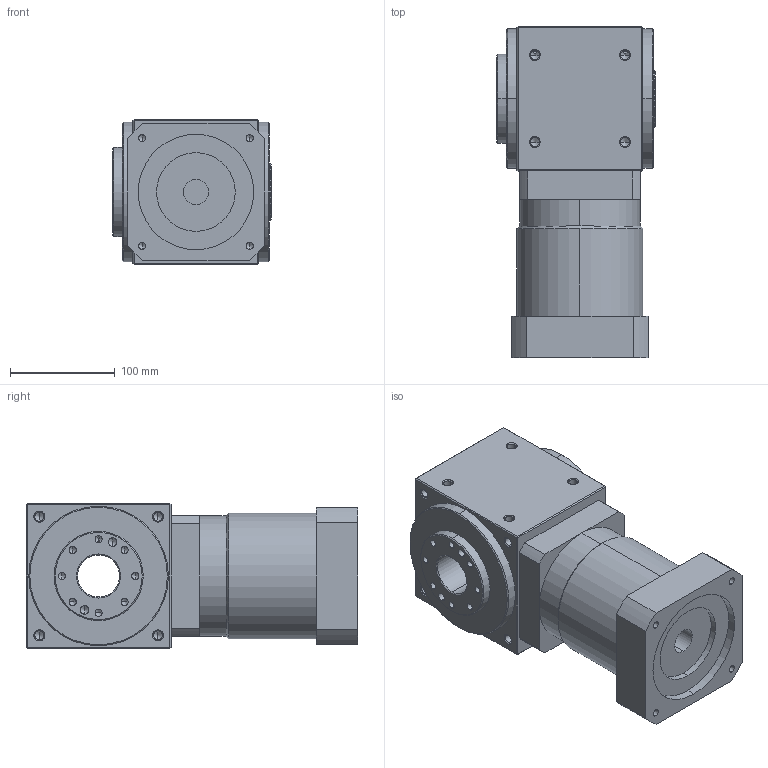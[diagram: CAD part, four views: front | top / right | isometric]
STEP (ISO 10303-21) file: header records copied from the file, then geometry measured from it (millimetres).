
FILE_DESCRIPTION (( 'STEP AP214' ), '1' );
FILE_NAME ('RXW135AS-L2-RF-22-110-145-m8.STEP', '2020-11-27T03:24:13', ( '微软用户' ), ( '微软中国' ), 'SwSTEP 2.0', 'SolidWorks 2014', '' );
FILE_SCHEMA (( 'AUTOMOTIVE_DESIGN' ));
Length unit declared in the file: millimetre
Products named in the file (2): RXW135AS-L2-RF-22-110-145-m8
Bounding box: 151.5 x 316 x 138 mm (x, y, z)
Volume: 4508474.4 mm3; surface area: 240904.6 mm2
Topology: 1 solids, 1 shells, 265 faces, 638 edges, 342 vertices
Faces by surface type: cone 122, cylinder 96, plane 47
Entity records: 10166 total; most frequent: DIRECTION 1348, CARTESIAN_POINT 1291, ORIENTED_EDGE 1140, EDGE_CURVE 570, AXIS2_PLACEMENT_3D 527, VERTEX_POINT 342, EDGE_LOOP 310, VECTOR 294
